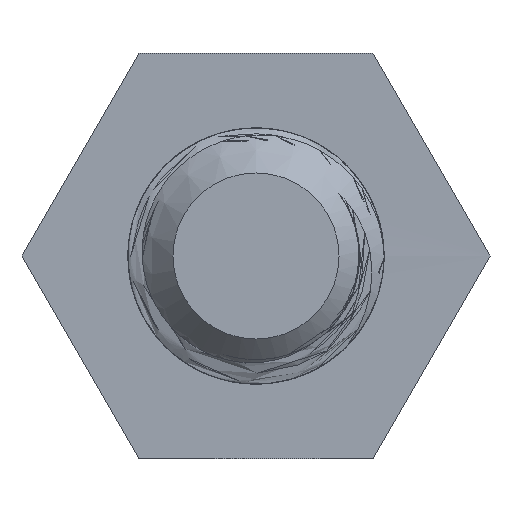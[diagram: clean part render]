
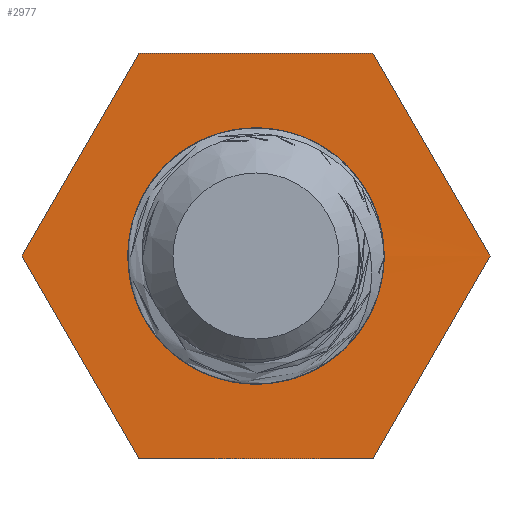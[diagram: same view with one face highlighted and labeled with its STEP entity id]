
A CAD part, front view. The second image highlights one B-rep face of the part: STEP entity #2977.
In plain terms, the highlighted planar face has unit normal (0, -1, 0).
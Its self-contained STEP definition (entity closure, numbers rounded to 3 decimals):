
#21 = CARTESIAN_POINT ( 'NONE',  ( 1.299, 0., -2.25 ) ) ;
#51 = CARTESIAN_POINT ( 'NONE',  ( -1.299, 0., 2.25 ) ) ;
#85 = FACE_OUTER_BOUND ( 'NONE', #1366, .T. ) ;
#155 = CARTESIAN_POINT ( 'NONE',  ( 1.333, 0., -0.506 ) ) ;
#189 = CARTESIAN_POINT ( 'NONE',  ( 1.009, 0., 1.015 ) ) ;
#213 = CARTESIAN_POINT ( 'NONE',  ( 1.422, -0.004, 0. ) ) ;
#242 = VERTEX_POINT ( 'NONE', #1616 ) ;
#392 = B_SPLINE_CURVE_WITH_KNOTS ( 'NONE', 3,
 ( #2390, #957, #707, #3544, #155, #2446, #2124, #3600, #1856, #1013 ),
 .UNSPECIFIED., .F., .F.,
 ( 4, 2, 2, 2, 4 ),
 ( 0.25, 0.285, 0.319, 0.354, 0.389 ),
 .UNSPECIFIED. ) ;
#412 = CARTESIAN_POINT ( 'NONE',  ( 2.598, 0., 0. ) ) ;
#455 = CARTESIAN_POINT ( 'NONE',  ( -0.486, 0., 1.346 ) ) ;
#462 = ORIENTED_EDGE ( 'NONE', *, *, #872, .F. ) ;
#474 = CARTESIAN_POINT ( 'NONE',  ( 0.463, 0., 1.355 ) ) ;
#510 = CARTESIAN_POINT ( 'NONE',  ( -1.357, 0., 0.454 ) ) ;
#525 = ORIENTED_EDGE ( 'NONE', *, *, #595, .F. ) ;
#566 = VECTOR ( 'NONE', #571, 1000. ) ;
#571 = DIRECTION ( 'NONE',  ( -0.5, 0., -0.866 ) ) ;
#595 = EDGE_CURVE ( 'NONE', #1949, #1607, #1715, .T. ) ;
#609 = DIRECTION ( 'NONE',  ( -0.5, 0., 0.866 ) ) ;
#633 = VECTOR ( 'NONE', #3325, 1000. ) ;
#682 = ORIENTED_EDGE ( 'NONE', *, *, #1092, .F. ) ;
#687 = DIRECTION ( 'NONE',  ( 0., 0., 1. ) ) ;
#707 = CARTESIAN_POINT ( 'NONE',  ( 1.411, 0., -0.207 ) ) ;
#724 = CARTESIAN_POINT ( 'NONE',  ( -1.278, 0., -0.646 ) ) ;
#741 = CARTESIAN_POINT ( 'NONE',  ( -1.343, 0., -0.494 ) ) ;
#835 = DIRECTION ( 'NONE',  ( -1., 0., 0. ) ) ;
#872 = EDGE_CURVE ( 'NONE', #1607, #3059, #3254, .T. ) ;
#934 = ORIENTED_EDGE ( 'NONE', *, *, #3674, .F. ) ;
#957 = CARTESIAN_POINT ( 'NONE',  ( 1.422, 0., -0.104 ) ) ;
#1013 = CARTESIAN_POINT ( 'NONE',  ( 0.916, 0., -1.089 ) ) ;
#1028 = CARTESIAN_POINT ( 'NONE',  ( -0.991, 0., -1.033 ) ) ;
#1030 = PLANE ( 'NONE',  #3458 ) ;
#1047 = CARTESIAN_POINT ( 'NONE',  ( -1.131, 0., 0.878 ) ) ;
#1065 = VERTEX_POINT ( 'NONE', #2518 ) ;
#1067 = LINE ( 'NONE', #2760, #633 ) ;
#1086 = CARTESIAN_POINT ( 'NONE',  ( -1.103, 0., -0.913 ) ) ;
#1092 = EDGE_CURVE ( 'NONE', #2174, #1949, #1067, .T. ) ;
#1119 = VECTOR ( 'NONE', #609, 1000. ) ;
#1232 = VERTEX_POINT ( 'NONE', #1910 ) ;
#1347 = CARTESIAN_POINT ( 'NONE',  ( 1.21, 0., 0.766 ) ) ;
#1366 = EDGE_LOOP ( 'NONE', ( #525, #682, #3383, #2477, #934, #462 ) ) ;
#1369 = CARTESIAN_POINT ( 'NONE',  ( -0.287, 0., -1.403 ) ) ;
#1370 = EDGE_CURVE ( 'NONE', #1232, #3613, #3668, .T. ) ;
#1545 = EDGE_CURVE ( 'NONE', #1065, #2174, #3198, .T. ) ;
#1607 = VERTEX_POINT ( 'NONE', #2854 ) ;
#1609 = CARTESIAN_POINT ( 'NONE',  ( -0.331, 0., 1.393 ) ) ;
#1616 = CARTESIAN_POINT ( 'NONE',  ( 1.299, 0., -2.25 ) ) ;
#1628 = CARTESIAN_POINT ( 'NONE',  ( 0.615, 0., 1.292 ) ) ;
#1666 = CARTESIAN_POINT ( 'NONE',  ( -0.775, 0., 1.204 ) ) ;
#1715 = LINE ( 'NONE', #51, #2871 ) ;
#1726 = CARTESIAN_POINT ( 'NONE',  ( 1.422, 0., 0.162 ) ) ;
#1745 = CARTESIAN_POINT ( 'NONE',  ( 1.396, 0., 0.32 ) ) ;
#1762 = EDGE_CURVE ( 'NONE', #242, #1065, #2328, .T. ) ;
#1856 = CARTESIAN_POINT ( 'NONE',  ( 0.995, 0., -1.022 ) ) ;
#1872 = CARTESIAN_POINT ( 'NONE',  ( -1.222, 0., 0.747 ) ) ;
#1910 = CARTESIAN_POINT ( 'NONE',  ( 0.916, 0., -1.089 ) ) ;
#1932 = CARTESIAN_POINT ( 'NONE',  ( 0.916, 0., -1.089 ) ) ;
#1949 = VERTEX_POINT ( 'NONE', #2347 ) ;
#1952 = CARTESIAN_POINT ( 'NONE',  ( -1.431, 0., -0.021 ) ) ;
#2073 = CARTESIAN_POINT ( 'NONE',  ( -2.598, 0., 0. ) ) ;
#2124 = CARTESIAN_POINT ( 'NONE',  ( 1.193, 0., -0.782 ) ) ;
#2140 = DIRECTION ( 'NONE',  ( 0., 1., 0. ) ) ;
#2159 = CARTESIAN_POINT ( 'NONE',  ( -0.592, 0., -1.303 ) ) ;
#2174 = VERTEX_POINT ( 'NONE', #2073 ) ;
#2176 = CARTESIAN_POINT ( 'NONE',  ( 0.196, 0., -1.418 ) ) ;
#2194 = CARTESIAN_POINT ( 'NONE',  ( 0.151, 0., 1.424 ) ) ;
#2237 = CARTESIAN_POINT ( 'NONE',  ( -1.42, 0., -0.185 ) ) ;
#2241 = CARTESIAN_POINT ( 'NONE',  ( 2.598, 0., 0. ) ) ;
#2263 = VECTOR ( 'NONE', #835, 1000. ) ;
#2328 = LINE ( 'NONE', #21, #2263 ) ;
#2347 = CARTESIAN_POINT ( 'NONE',  ( -1.299, 0., 2.25 ) ) ;
#2390 = CARTESIAN_POINT ( 'NONE',  ( 1.422, -0.004, 0. ) ) ;
#2446 = CARTESIAN_POINT ( 'NONE',  ( 1.246, 0., -0.694 ) ) ;
#2477 = ORIENTED_EDGE ( 'NONE', *, *, #1762, .F. ) ;
#2511 = VECTOR ( 'NONE', #2686, 1000. ) ;
#2518 = CARTESIAN_POINT ( 'NONE',  ( -1.299, 0., -2.25 ) ) ;
#2522 = LINE ( 'NONE', #2241, #566 ) ;
#2554 = CARTESIAN_POINT ( 'NONE',  ( 1.289, 0., 0.623 ) ) ;
#2598 = DIRECTION ( 'NONE',  ( 1., 0., 0. ) ) ;
#2686 = DIRECTION ( 'NONE',  ( 0.5, 0., -0.866 ) ) ;
#2706 = ORIENTED_EDGE ( 'NONE', *, *, #1370, .T. ) ;
#2760 = CARTESIAN_POINT ( 'NONE',  ( -2.598, 0., 0. ) ) ;
#2778 = CARTESIAN_POINT ( 'NONE',  ( 0.886, 0., 1.124 ) ) ;
#2797 = CARTESIAN_POINT ( 'NONE',  ( 0.794, 0., -1.192 ) ) ;
#2854 = CARTESIAN_POINT ( 'NONE',  ( 1.299, 0., 2.25 ) ) ;
#2871 = VECTOR ( 'NONE', #2598, 1000. ) ;
#2879 = EDGE_CURVE ( 'NONE', #3613, #1232, #392, .T. ) ;
#2966 = CARTESIAN_POINT ( 'NONE',  ( 1.299, 0., 2.25 ) ) ;
#2969 = FACE_BOUND ( 'NONE', #3373, .T. ) ;
#2977 = ADVANCED_FACE ( 'NONE', ( #2969, #85 ), #1030, .F. ) ;
#3023 = CARTESIAN_POINT ( 'NONE',  ( -0.904, 0., 1.11 ) ) ;
#3043 = CARTESIAN_POINT ( 'NONE',  ( -0.737, 0., -1.227 ) ) ;
#3059 = VERTEX_POINT ( 'NONE', #412 ) ;
#3061 = CARTESIAN_POINT ( 'NONE',  ( -0.013, 0., 1.431 ) ) ;
#3099 = CARTESIAN_POINT ( 'NONE',  ( -1.4, 0., 0.298 ) ) ;
#3178 = CARTESIAN_POINT ( 'NONE',  ( -1.299, 0., -2.25 ) ) ;
#3198 = LINE ( 'NONE', #3178, #1119 ) ;
#3254 = LINE ( 'NONE', #2966, #2511 ) ;
#3274 = CARTESIAN_POINT ( 'NONE',  ( 0., 0., 0. ) ) ;
#3308 = CARTESIAN_POINT ( 'NONE',  ( 0.352, 0., -1.388 ) ) ;
#3325 = DIRECTION ( 'NONE',  ( 0.5, 0., 0.866 ) ) ;
#3373 = EDGE_LOOP ( 'NONE', ( #3632, #2706 ) ) ;
#3383 = ORIENTED_EDGE ( 'NONE', *, *, #1545, .F. ) ;
#3386 = CARTESIAN_POINT ( 'NONE',  ( 0.654, 0., -1.273 ) ) ;
#3458 = AXIS2_PLACEMENT_3D ( 'NONE', #3274, #2140, #687 ) ;
#3478 = CARTESIAN_POINT ( 'NONE',  ( 1.422, -0.004, 0. ) ) ;
#3544 = CARTESIAN_POINT ( 'NONE',  ( 1.367, 0., -0.407 ) ) ;
#3600 = CARTESIAN_POINT ( 'NONE',  ( 1.068, 0., -0.946 ) ) ;
#3613 = VERTEX_POINT ( 'NONE', #213 ) ;
#3615 = CARTESIAN_POINT ( 'NONE',  ( -0.128, 0., -1.426 ) ) ;
#3632 = ORIENTED_EDGE ( 'NONE', *, *, #2879, .T. ) ;
#3668 = B_SPLINE_CURVE_WITH_KNOTS ( 'NONE', 3,
 ( #1932, #2797, #3386, #3308, #2176, #3615, #1369, #2159, #3043, #1028, #1086, #724, #741, #2237, #1952, #3099, #510, #1872, #1047, #3023, #1666, #455, #1609, #3061, #2194, #474, #1628, #2778, #189, #1347, #2554, #1745, #1726, #3478 ),
 .UNSPECIFIED., .F., .F.,
 ( 4, 2, 2, 2, 2, 2, 2, 2, 2, 2, 2, 2, 2, 2, 2, 2, 4 ),
 ( 0.389, 0.442, 0.496, 0.55, 0.604, 0.658, 0.712, 0.765, 0.819, 0.873, 0.927, 0.981, 1.035, 1.088, 1.142, 1.196, 1.25 ),
 .UNSPECIFIED. ) ;
#3674 = EDGE_CURVE ( 'NONE', #3059, #242, #2522, .T. ) ;
